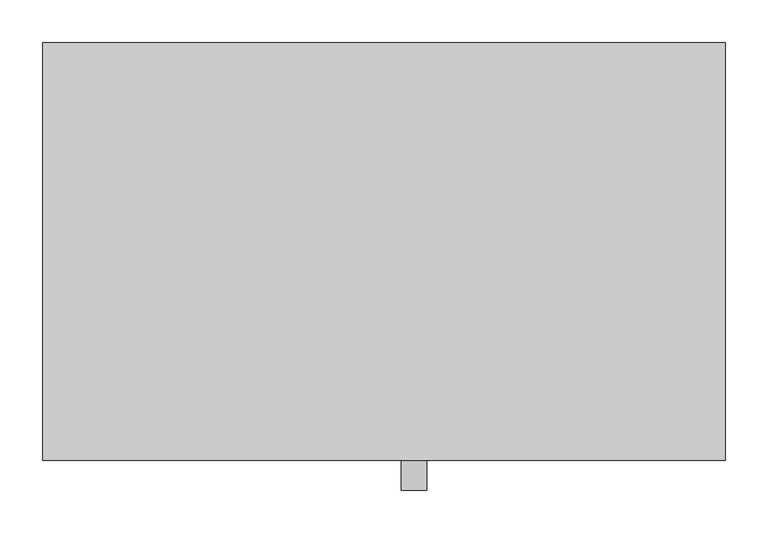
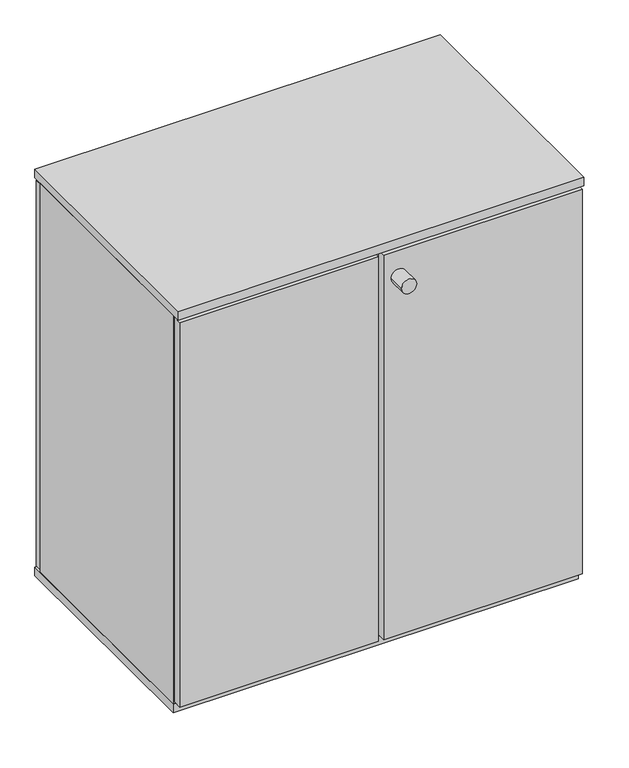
"""IFC4 building model written with IfcOpenShell, lengths in millimetres: furniture geometry, Grid Lockers - 2 Door Complimentary : GRID TWO DOOR CABINET 800mm(w) x 490mm(d) x 858mm(h)."""

from ifc_helpers import new_model, si_unit, point, frame, frame_2d, origin, origin_with_axes, place, context, project, spatial, polyline, circle_curve, trimmed, segment, composite_curve, outline, extrude, source, transform, mapped, element, save


def furniture_c24b8cdc(model_context):
    return source(origin(), model_context, "Body", "SweptSolid", [
        extrude(outline(composite_curve([segment(trimmed(circle_curve(frame_2d((750.0, -50.0)), 15.0), [point((735.0, -50.0))], [point((765.0, -50.0))], False, "CARTESIAN"), True, "CONTINUOUS"), segment(trimmed(circle_curve(frame_2d((750.0, -50.0)), 15.0), [point((765.0, -50.0))], [point((735.0, -50.0))], False, "CARTESIAN"), True, "CONTINUOUS")], self_intersect=False)), origin_with_axes(), (0.0, 0.0, 1.0), 10.0),
        extrude(outline(composite_curve([segment(trimmed(circle_curve(frame_2d((50.0, -50.0)), 15.0), [point((35.0, -50.0))], [point((65.0, -50.0))], False, "CARTESIAN"), True, "CONTINUOUS"), segment(trimmed(circle_curve(frame_2d((50.0, -50.0)), 15.0), [point((65.0, -50.0))], [point((35.0, -50.0))], False, "CARTESIAN"), True, "CONTINUOUS")], self_intersect=False)), origin_with_axes(), (0.0, 0.0, 1.0), 10.0),
        extrude(outline(composite_curve([segment(trimmed(circle_curve(frame_2d((50.0, -440.0)), 15.0), [point((35.0, -440.0))], [point((65.0, -440.0))], False, "CARTESIAN"), True, "CONTINUOUS"), segment(trimmed(circle_curve(frame_2d((50.0, -440.0)), 15.0), [point((65.0, -440.0))], [point((35.0, -440.0))], False, "CARTESIAN"), True, "CONTINUOUS")], self_intersect=False)), origin_with_axes(), (0.0, 0.0, 1.0), 10.0),
        extrude(outline(composite_curve([segment(trimmed(circle_curve(frame_2d((750.0, -440.0)), 15.0), [point((735.0, -440.0))], [point((765.0, -440.0))], False, "CARTESIAN"), True, "CONTINUOUS"), segment(trimmed(circle_curve(frame_2d((750.0, -440.0)), 15.0), [point((765.0, -440.0))], [point((735.0, -440.0))], False, "CARTESIAN"), True, "CONTINUOUS")], self_intersect=False)), origin_with_axes(), (0.0, 0.0, 1.0), 10.0),
        extrude(outline(polyline([(800.0, -472.0), (0.0, -472.0), (0.0, 0.0), (800.0, 0.0), (800.0, -472.0)])), frame((0.0, 0.0, 10.0), z_axis=(0.0, 0.0, 1.0), x_axis=(1.0, 0.0, 0.0)), (0.0, 0.0, 1.0), 18.0),
        extrude(outline(polyline([(800.0, -490.0), (0.0, -490.0), (0.0, 0.0), (800.0, 0.0), (800.0, -490.0)])), frame((0.0, 0.0, 840.0), z_axis=(0.0, 0.0, 1.0), x_axis=(1.0, 0.0, 0.0)), (0.0, 0.0, 1.0), 18.0),
        extrude(outline(composite_curve([segment(trimmed(circle_curve(frame_2d((780.0, 435.0)), 15.0), [point((780.0, 420.0))], [point((780.0, 450.0))], False, "CARTESIAN"), True, "CONTINUOUS"), segment(trimmed(circle_curve(frame_2d((780.0, 435.0)), 15.0), [point((780.0, 450.0))], [point((780.0, 420.0))], False, "CARTESIAN"), True, "CONTINUOUS")], self_intersect=False)), frame((0.0, -525.0, 0.0), z_axis=(0.0, 1.0, 0.0), x_axis=(0.0, 0.0, 1.0)), (0.0, 0.0, 1.0), 35.0),
        extrude(outline(polyline([(840.0, 800.0), (840.0, 0.0), (28.0, 0.0), (28.0, 3.0), (815.0, 3.0), (815.0, 797.0), (28.0, 797.0), (28.0, 800.0), (840.0, 800.0)])), frame((0.0, -472.0, 0.0), z_axis=(0.0, 1.0, 0.0), x_axis=(0.0, 0.0, 1.0)), (0.0, 0.0, 1.0), 454.0),
        extrude(outline(polyline([(395.0, -472.0), (395.0, -490.0), (3.0, -490.0), (3.0, -472.0), (395.0, -472.0)])), frame((0.0, 0.0, 32.0), z_axis=(0.0, 0.0, 1.0), x_axis=(1.0, 0.0, 0.0)), (0.0, 0.0, 1.0), 802.0),
        extrude(outline(polyline([(797.0, -490.0), (405.0, -490.0), (405.0, -472.0), (797.0, -472.0), (797.0, -490.0)])), frame((0.0, 0.0, 32.0), z_axis=(0.0, 0.0, 1.0), x_axis=(1.0, 0.0, 0.0)), (0.0, 0.0, 1.0), 802.0),
        extrude(outline(polyline([(797.0, 0.0), (797.0, -18.0), (3.0, -18.0), (3.0, 0.0), (797.0, 0.0)])), frame((0.0, 0.0, 18.0), z_axis=(0.0, 0.0, 1.0), x_axis=(1.0, 0.0, 0.0)), (0.0, 0.0, 1.0), 816.0),
    ])


if __name__ == "__main__":
    model = new_model("IFC4")
    model_context = context("Model", 3, world=origin())
    ifc_project = project(units=[si_unit("LENGTHUNIT", "METRE", prefix="MILLI")], contexts=[model_context])
    site = spatial("IfcSite", under=ifc_project)
    building = spatial("IfcBuilding", under=site)
    placement = place(None, origin())
    furniture_shape = furniture_c24b8cdc(model_context)
    element("IfcFurniture", 1, ObjectType="Grid Lockers - 2 Door Complimentary : GRID TWO DOOR CABINET 800mm(w) x 490mm(d) x 858mm(h)", at=placement, inside=building, context=model_context, shape_type="MappedRepresentation", body=[
        mapped(furniture_shape, transform((0.0, 0.0, 0.0), x_axis=(1.0, 0.0, 0.0), y_axis=(0.0, 1.0, 0.0), z_axis=(0.0, 0.0, 1.0))),
    ])
    save(model, "model.ifc")
